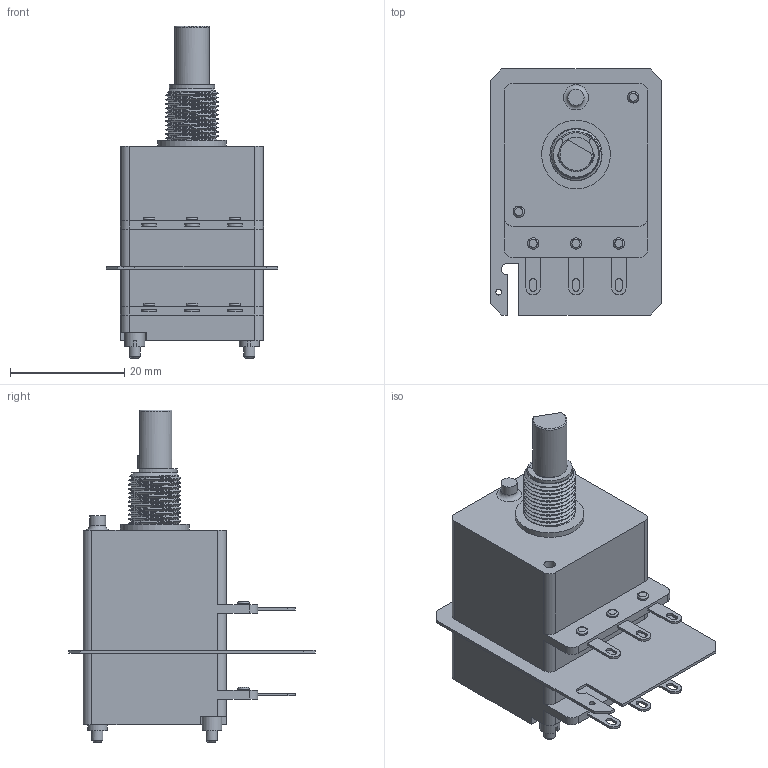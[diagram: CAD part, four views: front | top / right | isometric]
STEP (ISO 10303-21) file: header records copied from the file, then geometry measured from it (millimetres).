
FILE_DESCRIPTION(('FreeCAD Model'),'2;1');
FILE_NAME('Open CASCADE Shape Model','2026-07-14T17:13:14',(''),(''), 'Open CASCADE STEP processor 7.8','FreeCAD','Unknown');
FILE_SCHEMA(('AUTOMOTIVE_DESIGN { 1 0 10303 214 1 1 1 1 }'));
Length unit declared in the file: millimetre
Products named in the file (1): 2CP25XX-S-6F20
Bounding box: 30 x 43 x 58 mm (x, y, z)
Volume: 22688.5 mm3; surface area: 8568.9 mm2
Topology: 1 solids, 10 shells, 297 faces, 748 edges, 490 vertices
Faces by surface type: plane 155, cylinder 89, bspline 38, torus 9, cone 6
Full cylindrical faces by diameter (mm): 1 x1, 1.9 x6, 2 x14, 2.2 x8, 2.8 x1, 3.5 x2, 4.5 x2, 5.4 x1, 6 x1, 6.05 x1, 8 x1, 9 x1, 12 x1
Entity records: 14554 total; most frequent: CARTESIAN_POINT 5952, ORIENTED_EDGE 1494, DIRECTION 1449, EDGE_CURVE 747, AXIS2_PLACEMENT_3D 546, VERTEX_POINT 490, LINE 357, VECTOR 357
